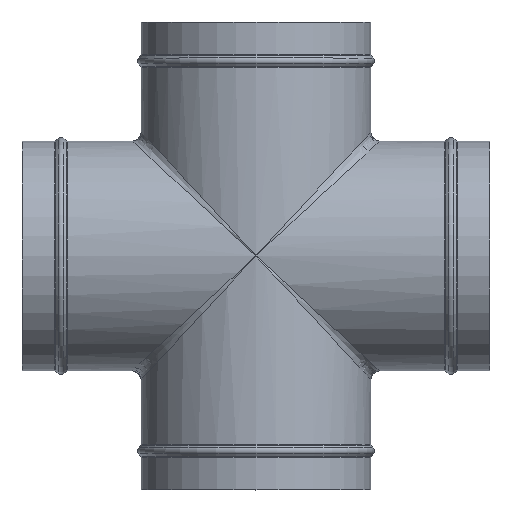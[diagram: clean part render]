
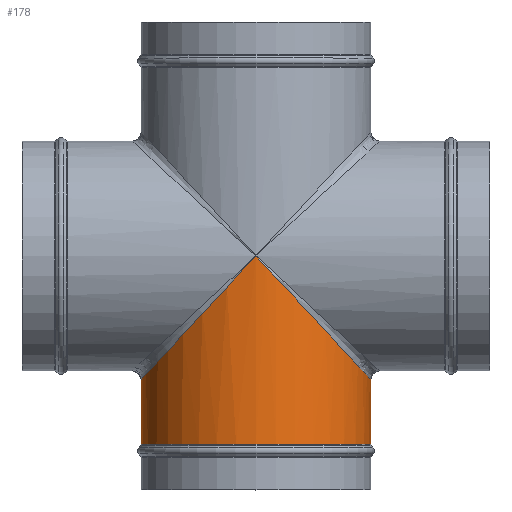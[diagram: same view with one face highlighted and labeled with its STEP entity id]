
A CAD part, top view. The second image highlights one B-rep face of the part: STEP entity #178.
In plain terms, the highlighted cylindrical face has radius 102 mm (diameter 204 mm), a full revolution.
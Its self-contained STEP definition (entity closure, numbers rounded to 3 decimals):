
#178=ADVANCED_FACE('',(#301,#302),#220,.T.);
#220=CYLINDRICAL_SURFACE('',#875,102.);
#235=ELLIPSE('',#872,150.013,102.);
#236=ELLIPSE('',#873,150.013,102.);
#301=FACE_BOUND('',#421,.T.);
#302=FACE_BOUND('',#422,.T.);
#421=EDGE_LOOP('',(#550,#551));
#422=EDGE_LOOP('',(#552));
#550=ORIENTED_EDGE('',*,*,#716,.T.);
#551=ORIENTED_EDGE('',*,*,#717,.T.);
#552=ORIENTED_EDGE('',*,*,#718,.T.);
#622=VERTEX_POINT('',#1199);
#623=VERTEX_POINT('',#1200);
#652=VERTEX_POINT('',#1295);
#716=EDGE_CURVE('',#623,#622,#235,.T.);
#717=EDGE_CURVE('',#622,#623,#236,.T.);
#718=EDGE_CURVE('',#652,#652,#776,.T.);
#776=CIRCLE('',#874,102.);
#872=AXIS2_PLACEMENT_3D('',#1292,#1070,#1071);
#873=AXIS2_PLACEMENT_3D('',#1293,#1072,#1073);
#874=AXIS2_PLACEMENT_3D('',#1294,#1074,#1075);
#875=AXIS2_PLACEMENT_3D('',#1296,#1076,#1077);
#1070=DIRECTION('',(0.733,-0.68,0.));
#1071=DIRECTION('',(0.68,0.733,0.));
#1072=DIRECTION('',(-0.733,-0.68,0.));
#1073=DIRECTION('',(-0.68,0.733,0.));
#1074=DIRECTION('',(0.,1.,0.));
#1075=DIRECTION('',(-1.,0.,0.));
#1076=DIRECTION('',(0.,1.,0.));
#1077=DIRECTION('',(-1.,0.,0.));
#1199=CARTESIAN_POINT('',(0.,0.,-102.));
#1200=CARTESIAN_POINT('',(0.,0.,102.));
#1292=CARTESIAN_POINT('',(0.,0.,0.));
#1293=CARTESIAN_POINT('',(0.,0.,0.));
#1294=CARTESIAN_POINT('',(0.,-167.222,0.));
#1295=CARTESIAN_POINT('',(-102.,-167.222,0.));
#1296=CARTESIAN_POINT('',(0.,-207.5,0.));
